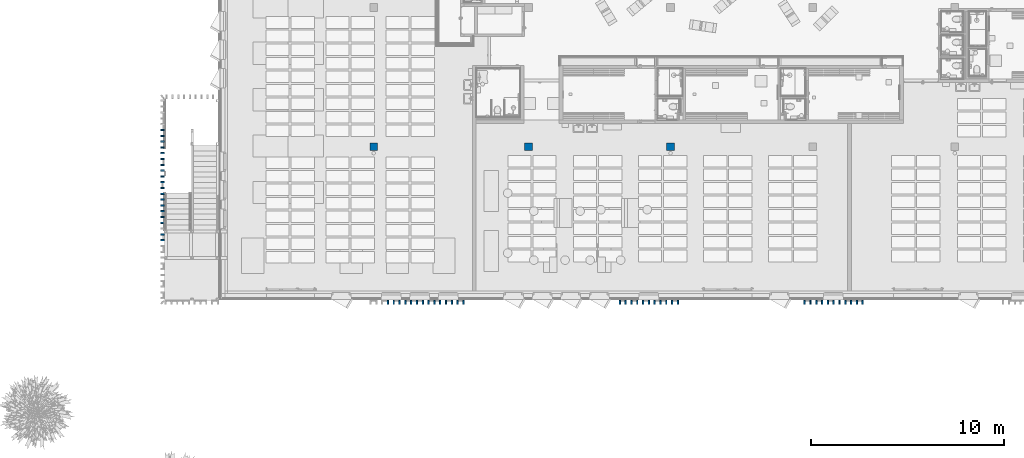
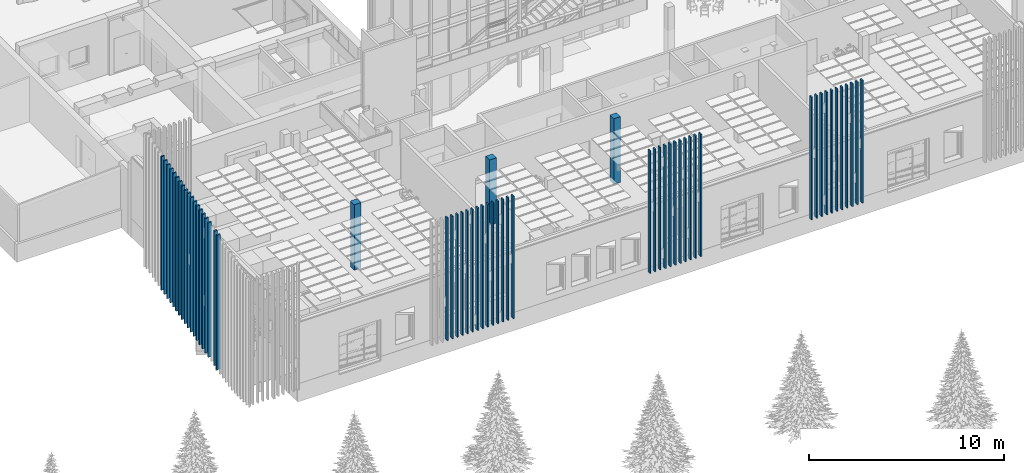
# One storey, part 12 of 301: 58 columns.
"""IFC2X3 building model written with IfcOpenShell, lengths in millimetres."""

import ifcopenshell
import ifcopenshell.guid

model = None  # the IFC model being written
_history = None  # IfcOwnerHistory: only IFC2X3 demands one
_inside = {}  # id of a spatial element -> (the spatial element, [elements in it])
_under = {}  # id of a project, library or spatial element -> (it, [spatial elements below it])
_declared = {}  # id of a project -> (the project, [libraries it declares])
_typed = {}  # id of a type object -> (the type object, [elements of that type])
_made_of = {}  # id of a material, layer set ... -> (it, [elements and type objects made of it])


def new_model(schema):
    """Start an empty IFC model of exactly this schema.

    Asked for "IFC4X3", IfcOpenShell would pick the latest addendum, in which some entities
    have other attributes; the version numbers below select the first issue.
    IFC2X3 requires an IfcOwnerHistory on every rooted entity: one is made here for all.
    """
    global model, _history
    if schema == "IFC4X3":
        model = ifcopenshell.file(schema_version=(4, 3, 0, 0))
    else:
        model = ifcopenshell.file(schema=schema)
    _inside.clear()
    _under.clear()
    _declared.clear()
    _typed.clear()
    _made_of.clear()
    _history = None
    if model.schema == "IFC2X3":
        org = make("IfcOrganization", Name="unknown")
        user = make(
            "IfcPersonAndOrganization",
            ThePerson=make("IfcPerson", FamilyName="unknown"),
            TheOrganization=org,
        )
        app = make(
            "IfcApplication",
            ApplicationDeveloper=org,
            Version="unknown",
            ApplicationFullName="unknown",
            ApplicationIdentifier="unknown",
        )
        _history = make(
            "IfcOwnerHistory",
            OwningUser=user,
            OwningApplication=app,
            ChangeAction="ADDED",
            CreationDate=0,
        )
    return model


def make(cls, **values):
    """One entity of the class cls with the attributes given. An attribute that is None is left unset."""
    return model.create_entity(
        cls, **{name: value for name, value in values.items() if value is not None}
    )


def entity(cls, *values):
    """Any entity or typed value of the class cls, its attributes in the order of the schema. None: left unset."""
    e = model.create_entity(cls)
    for i, value in enumerate(values):
        if value is not None:
            e[i] = value
    return e


def rooted(cls, **values):
    """An entity with a GlobalId (a new one), such as an element, a storey or a relation."""
    return make(cls, GlobalId=ifcopenshell.guid.new(), OwnerHistory=_history, **values)


def si_unit(unit_type, name, prefix=None):
    """IfcSIUnit, for example si_unit("LENGTHUNIT", "METRE", prefix="MILLI")."""
    return make("IfcSIUnit", UnitType=unit_type, Prefix=prefix, Name=name)


def converted_unit(unit_type, name, factor, base, dimensions=None, offset=None):
    """IfcConversionBasedUnit, such as the inch: factor (a typed value) times the base unit."""
    return make(
        "IfcConversionBasedUnit"
        if offset is None
        else "IfcConversionBasedUnitWithOffset",
        ConversionOffset=offset,
        Dimensions=None
        if dimensions is None
        else entity("IfcDimensionalExponents", *dimensions),
        UnitType=unit_type,
        Name=name,
        ConversionFactor=make(
            "IfcMeasureWithUnit", ValueComponent=factor, UnitComponent=base
        ),
    )


def derived_unit(unit_type, elements):
    """IfcDerivedUnit: a product of units, each with its exponent."""
    return make(
        "IfcDerivedUnit",
        Elements=[
            make("IfcDerivedUnitElement", Unit=unit, Exponent=power)
            for unit, power in elements
        ],
        UnitType=unit_type,
    )


def money_unit(currency):
    """IfcMonetaryUnit."""
    return make("IfcMonetaryUnit", Currency=currency)


def assignment(units):
    """IfcUnitAssignment: the units of a project."""
    return None if units is None else make("IfcUnitAssignment", Units=units)


def point(xyz):
    """IfcCartesianPoint."""
    return None if xyz is None else make("IfcCartesianPoint", Coordinates=xyz)


def direction(xyz):
    """IfcDirection."""
    return None if xyz is None else make("IfcDirection", DirectionRatios=xyz)


def frame(location, z_axis=None, x_axis=None):
    """IfcAxis2Placement3D, a coordinate frame: its origin and axes. An axis left out is left unset."""
    return make(
        "IfcAxis2Placement3D",
        Location=point(location),
        Axis=direction(z_axis),
        RefDirection=direction(x_axis),
    )


def origin_with_axes():
    """The frame at (0, 0, 0) with the z axis (0, 0, 1) and the x axis (1, 0, 0) written out."""
    return frame((0.0, 0.0, 0.0), z_axis=(0.0, 0.0, 1.0), x_axis=(1.0, 0.0, 0.0))


def place(relative_to, where):
    """IfcLocalPlacement: puts the frame where relative to a parent placement (None: the world)."""
    return make(
        "IfcLocalPlacement", PlacementRelTo=relative_to, RelativePlacement=where
    )


def context(
    kind, dimensions, precision=None, world=None, true_north=None, identifier=None
):
    """IfcGeometricRepresentationContext, for example the 3D "Model" context."""
    return make(
        "IfcGeometricRepresentationContext",
        ContextIdentifier=identifier,
        ContextType=kind,
        CoordinateSpaceDimension=dimensions,
        Precision=precision,
        WorldCoordinateSystem=world,
        TrueNorth=true_north,
    )


def subcontext(parent, identifier, kind, view, scale=None):
    """IfcGeometricRepresentationSubContext, for example "Body" below "Model"."""
    return make(
        "IfcGeometricRepresentationSubContext",
        ContextIdentifier=identifier,
        ContextType=kind,
        ParentContext=parent,
        TargetScale=scale,
        TargetView=view,
    )


def project(units=None, contexts=None):
    """IfcProject with its units and contexts."""
    return rooted(
        "IfcProject",
        Name="project",
        RepresentationContexts=contexts,
        UnitsInContext=assignment(units),
    )


def spatial(cls, under=None, at=None, **own):
    """A site, building, storey or space (cls), placed at a placement, below another one or the project."""
    s = rooted(cls, ObjectPlacement=at, **own)
    if under is not None:
        _under.setdefault(under.id(), (under, []))[1].append(s)
    return s


def faces_of(points, faces, orient=None, outer=None):
    """IfcFace entities. A face is a list of loops; a loop is a list of indices into points, from 0.

    orient and outer hold one flag for each loop. By default every Orientation is true, the
    first loop of a face is its IfcFaceOuterBound and the others are IfcFaceBound.
    """
    made = []
    for i, loops in enumerate(faces):
        bounds = []
        for j, loop in enumerate(loops):
            is_outer = j == 0 if outer is None else outer[i][j]
            bounds.append(
                make(
                    "IfcFaceOuterBound" if is_outer else "IfcFaceBound",
                    Bound=make("IfcPolyLoop", Polygon=[points[k] for k in loop]),
                    Orientation=True if orient is None else orient[i][j],
                )
            )
        made.append(make("IfcFace", Bounds=bounds))
    return made


def faceted_brep(points, faces, orient=None, outer=None, voids=None):
    """IfcFacetedBrep: a solid bounded by flat faces; with voids (closed shells), ...WithVoids."""
    shared = [point(p) for p in points]
    hull = make("IfcClosedShell", CfsFaces=faces_of(shared, faces, orient, outer))
    if voids is None:
        return make("IfcFacetedBrep", Outer=hull)
    return make(
        "IfcFacetedBrepWithVoids",
        Outer=hull,
        Voids=[
            make(cls, CfsFaces=faces_of(shared, fs, o, b)) for cls, fs, o, b in voids
        ],
    )


def shape(context_of_items, identifier, shape_type, items):
    """IfcShapeRepresentation: the items that make up one representation, for example the "Body"."""
    return make(
        "IfcShapeRepresentation",
        ContextOfItems=context_of_items,
        RepresentationIdentifier=identifier,
        RepresentationType=shape_type,
        Items=items,
    )


def material(Name=None, Category=None):
    """IfcMaterial."""
    return make("IfcMaterial", Name=Name, Category=Category)


def made_of(thing, what):
    """Note that an element or type object is made of a material, layer set ...; save() writes the relation."""
    if what is not None:
        _made_of.setdefault(what.id(), (what, []))[1].append(thing)
    return thing


def type_object(cls, material=None, **own):
    """A type object (cls), such as IfcWallType, which elements share."""
    return made_of(rooted(cls, **own), material)


def element(
    cls,
    number,
    at=None,
    inside=None,
    cuts=None,
    type_object=None,
    material=None,
    context=None,
    identifier="Body",
    shape_type=None,
    held_by="IfcProductDefinitionShape",
    body=None,
    shapes=None,
    **own,
):
    """One element of the class cls, such as IfcWall. Its Tag is "e" and its number.

    at: its placement. inside: the storey or other place that contains it. cuts: it is an
    opening in that element (IfcRelVoidsElement). A single representation is given by context,
    identifier, shape_type and body (its items); several are given by shapes. held_by: the class
    of the entity that holds the representations. save() writes the other relations.
    """
    e = rooted(cls, Tag="e%d" % number, ObjectPlacement=at, **own)
    if body is not None:
        shapes = [shape(context, identifier, shape_type, body)]
    if shapes is not None:
        e.Representation = make(held_by, Representations=shapes)
    if inside is not None:
        _inside.setdefault(inside.id(), (inside, []))[1].append(e)
    if cuts is not None:
        rooted(
            "IfcRelVoidsElement", RelatingBuildingElement=cuts, RelatedOpeningElement=e
        )
    if type_object is not None:
        _typed.setdefault(type_object.id(), (type_object, []))[1].append(e)
    return made_of(e, material)


def aggregate(whole, parts):
    """IfcRelAggregates: a whole, such as a stair, and the parts it consists of."""
    return rooted("IfcRelAggregates", RelatingObject=whole, RelatedObjects=parts)


def save(model, path):
    """Write the relations noted so far, then the file.

    IfcRelAggregates (storeys below a building ...), IfcRelContainedInSpatialStructure (elements
    in a storey), IfcRelDefinesByType, IfcRelAssociatesMaterial and IfcRelDeclares: one each for
    every whole, place, type object, material and project.
    """
    for whole, parts in _under.values():
        aggregate(whole, parts)
    for where, things in _inside.values():
        rooted(
            "IfcRelContainedInSpatialStructure",
            RelatedElements=things,
            RelatingStructure=where,
        )
    for kind, things in _typed.values():
        rooted("IfcRelDefinesByType", RelatedObjects=things, RelatingType=kind)
    for what, things in _made_of.values():
        rooted("IfcRelAssociatesMaterial", RelatedObjects=things, RelatingMaterial=what)
    for by, libraries in _declared.values():
        rooted("IfcRelDeclares", RelatingContext=by, RelatedDefinitions=libraries)
    model.write(path)


model = new_model("IFC2X3")

# Units and contexts
model_context = context("Model", 3, precision=0.01, world=origin_with_axes(), true_north=direction((0.0, 1.0)))
body_context = subcontext(model_context, "Body", "Model", "MODEL_VIEW")
ifc_project = project(units=[si_unit("LENGTHUNIT", "METRE", prefix="MILLI"), si_unit("AREAUNIT", "SQUARE_METRE"), si_unit("VOLUMEUNIT", "CUBIC_METRE"), converted_unit("PLANEANGLEUNIT", "DEGREE", entity("IfcPlaneAngleMeasure", 0.0174532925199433), si_unit("PLANEANGLEUNIT", "RADIAN"), dimensions=[0, 0, 0, 0, 0, 0, 0]), money_unit("EUR"), converted_unit("TIMEUNIT", "Year", entity("IfcTimeMeasure", 31557600.0), si_unit("TIMEUNIT", "SECOND"), dimensions=[0, 0, 1, 0, 0, 0, 0]), si_unit("MASSUNIT", "GRAM", prefix="KILO"), si_unit("THERMODYNAMICTEMPERATUREUNIT", "DEGREE_CELSIUS"), si_unit("LUMINOUSINTENSITYUNIT", "LUMEN"), si_unit("ENERGYUNIT", "JOULE", prefix="MEGA"), derived_unit("THERMALCONDUCTANCEUNIT", [(si_unit("POWERUNIT", "WATT"), 1), (si_unit("LENGTHUNIT", "METRE"), -1), (si_unit("THERMODYNAMICTEMPERATUREUNIT", "KELVIN"), -1)]), derived_unit("SPECIFICHEATCAPACITYUNIT", [(si_unit("ENERGYUNIT", "JOULE"), 1), (si_unit("MASSUNIT", "GRAM", prefix="KILO"), -1), (si_unit("THERMODYNAMICTEMPERATUREUNIT", "KELVIN"), -1)]), derived_unit("MASSDENSITYUNIT", [(si_unit("MASSUNIT", "GRAM", prefix="KILO"), 1), (si_unit("VOLUMEUNIT", "CUBIC_METRE"), -1)])], contexts=[model_context])

# Site, building, storey
site_placement = place(None, frame((0.0, 0.0, 8650.0), z_axis=(0.0, 0.0, 1.0), x_axis=(1.0, 0.0, 0.0)))
site = spatial("IfcSite", under=ifc_project, at=site_placement, Name="43301:001:0844", CompositionType="ELEMENT")
building_placement = place(site_placement, origin_with_axes())
building = spatial("IfcBuilding", under=site, at=building_placement, Name="Kuressaare Ametikooli tuulikute mehaanikute õppekorpus", CompositionType="ELEMENT")
storey_placement = place(building_placement, origin_with_axes())
storey = spatial("IfcBuildingStorey", under=building, at=storey_placement, Name="1.korrus", CompositionType="ELEMENT", Elevation=0.0)

# Columns
ifc_material_1 = material(Name="GENEERILINE - KONSTRUKTRIOON")
column_type_1 = type_object("IfcColumnType", Name="GENEERILINE - KONSTRUKTRIOON 200 x 75", PredefinedType="NOTDEFINED")
column_1_placement = place(storey_placement, frame((84946.22662386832, 15640.41808387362, 1426.869116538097), z_axis=(0.0, 0.0, 1.0), x_axis=(-1.0, 0.0, 0.0)))
element("IfcColumn", 1, at=column_1_placement, inside=storey, type_object=column_type_1, material=ifc_material_1, Name="Varjestus_viltu", context=body_context, shape_type="Brep", body=[
    faceted_brep([(100.0000000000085, -37.49999999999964, 8373.615978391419), (-99.99999999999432, -37.49999999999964, 8373.615971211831), (-99.99999999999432, -37.49999999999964, 0.0), (100.0000000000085, -37.49999999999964, 0.0), (-99.99999999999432, 37.49999999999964, 8353.519781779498), (100.0000000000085, 37.49999999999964, 8353.519788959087), (-99.99999999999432, 37.49999999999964, 0.0), (100.0000000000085, 37.49999999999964, 0.0)], [[[0, 1, 2, 3]], [[4, 1, 0, 5]], [[1, 4, 6, 2]], [[2, 6, 7, 3]], [[5, 0, 3, 7]], [[4, 5, 7, 6]]]),
])
column_2_placement = place(storey_placement, frame((84946.22662386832, 15940.41808387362, 1507.256109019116), z_axis=(0.0, 0.0, 1.0), x_axis=(-1.0, 0.0, 0.0)))
element("IfcColumn", 2, at=column_2_placement, inside=storey, type_object=column_type_1, material=ifc_material_1, Name="Varjestus_viltu", context=body_context, shape_type="Brep", body=[
    faceted_brep([(100.0000000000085, -37.49999999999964, 8373.613743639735), (-99.99999999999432, -37.49999999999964, 8373.61373646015), (-99.99999999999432, -37.49999999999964, 0.0), (100.0000000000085, -37.49999999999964, 0.0), (-99.99999999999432, 37.49999999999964, 8353.517547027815), (100.0000000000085, 37.49999999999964, 8353.517554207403), (-99.99999999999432, 37.49999999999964, 0.0), (100.0000000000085, 37.49999999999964, 0.0)], [[[0, 1, 2, 3]], [[4, 1, 0, 5]], [[1, 4, 6, 2]], [[2, 6, 7, 3]], [[5, 0, 3, 7]], [[4, 5, 7, 6]]]),
])
column_3_placement = place(storey_placement, frame((84946.22662386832, 16240.41808387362, 1587.643101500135), z_axis=(0.0, 0.0, 1.0), x_axis=(-1.0, 0.0, 0.0)))
element("IfcColumn", 3, at=column_3_placement, inside=storey, type_object=column_type_1, material=ifc_material_1, Name="Varjestus_viltu", context=body_context, shape_type="Brep", body=[
    faceted_brep([(100.0000000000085, -37.49999999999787, 8373.61150888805), (-99.99999999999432, -37.49999999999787, 8373.611501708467), (-99.99999999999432, -37.49999999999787, 0.0), (100.0000000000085, -37.49999999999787, 0.0), (-99.99999999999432, 37.50000000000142, 8353.51531227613), (100.0000000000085, 37.50000000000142, 8353.51531945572), (-99.99999999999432, 37.50000000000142, 0.0), (100.0000000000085, 37.50000000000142, 0.0)], [[[0, 1, 2, 3]], [[4, 1, 0, 5]], [[1, 4, 6, 2]], [[2, 6, 7, 3]], [[5, 0, 3, 7]], [[4, 5, 7, 6]]]),
])
column_4_placement = place(storey_placement, frame((84946.22662386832, 16540.41808387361, 1668.030093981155), z_axis=(0.0, 0.0, 1.0), x_axis=(-1.0, 0.0, 0.0)))
element("IfcColumn", 4, at=column_4_placement, inside=storey, type_object=column_type_1, material=ifc_material_1, Name="Varjestus_viltu", context=body_context, shape_type="Brep", body=[
    faceted_brep([(100.0000000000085, -37.49999999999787, 8373.609274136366), (-99.99999999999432, -37.49999999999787, 8373.609266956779), (-99.99999999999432, -37.49999999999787, 0.0), (100.0000000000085, -37.49999999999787, 0.0), (-99.99999999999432, 37.50000000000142, 8353.513077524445), (100.0000000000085, 37.50000000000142, 8353.513084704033), (-99.99999999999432, 37.50000000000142, 0.0), (100.0000000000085, 37.50000000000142, 0.0)], [[[0, 1, 2, 3]], [[4, 1, 0, 5]], [[1, 4, 6, 2]], [[2, 6, 7, 3]], [[5, 0, 3, 7]], [[4, 5, 7, 6]]]),
])
column_5_placement = place(storey_placement, frame((84946.22662386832, 16840.41808387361, 1748.417086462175), z_axis=(0.0, 0.0, 1.0), x_axis=(-1.0, 0.0, 0.0)))
element("IfcColumn", 5, at=column_5_placement, inside=storey, type_object=column_type_1, material=ifc_material_1, Name="Varjestus_viltu", context=body_context, shape_type="Brep", body=[
    faceted_brep([(100.0000000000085, -37.49999999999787, 8373.607039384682), (-99.99999999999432, -37.49999999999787, 8373.607032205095), (-99.99999999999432, -37.49999999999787, 0.0), (100.0000000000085, -37.49999999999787, 0.0), (-99.99999999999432, 37.50000000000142, 8353.51084277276), (100.0000000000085, 37.50000000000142, 8353.51084995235), (-99.99999999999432, 37.50000000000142, 0.0), (100.0000000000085, 37.50000000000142, 0.0)], [[[0, 1, 2, 3]], [[4, 1, 0, 5]], [[1, 4, 6, 2]], [[2, 6, 7, 3]], [[5, 0, 3, 7]], [[4, 5, 7, 6]]]),
])
column_6_placement = place(storey_placement, frame((84946.22662386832, 17140.41808387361, 1828.804078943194), z_axis=(0.0, 0.0, 1.0), x_axis=(-1.0, 0.0, 0.0)))
element("IfcColumn", 6, at=column_6_placement, inside=storey, type_object=column_type_1, material=ifc_material_1, Name="Varjestus_viltu", context=body_context, shape_type="Brep", body=[
    faceted_brep([(100.0000000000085, -37.49999999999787, 8373.604804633), (-99.99999999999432, -37.49999999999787, 8373.60479745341), (-99.99999999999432, -37.49999999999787, 0.0), (100.0000000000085, -37.49999999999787, 0.0), (-99.99999999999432, 37.50000000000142, 8353.50860802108), (100.0000000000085, 37.50000000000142, 8353.508615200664), (-99.99999999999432, 37.50000000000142, 0.0), (100.0000000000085, 37.50000000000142, 0.0)], [[[0, 1, 2, 3]], [[4, 1, 0, 5]], [[1, 4, 6, 2]], [[2, 6, 7, 3]], [[5, 0, 3, 7]], [[4, 5, 7, 6]]]),
])
column_7_placement = place(storey_placement, frame((84946.22662386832, 17440.41808387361, 1909.191071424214), z_axis=(0.0, 0.0, 1.0), x_axis=(-1.0, 0.0, 0.0)))
element("IfcColumn", 7, at=column_7_placement, inside=storey, type_object=column_type_1, material=ifc_material_1, Name="Varjestus_viltu", context=body_context, shape_type="Brep", body=[
    faceted_brep([(100.0000000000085, -37.49999999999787, 8373.602569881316), (-99.99999999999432, -37.49999999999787, 8373.602562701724), (-99.99999999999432, -37.49999999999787, 0.0), (100.0000000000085, -37.49999999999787, 0.0), (-99.99999999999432, 37.50000000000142, 8353.506373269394), (100.0000000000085, 37.50000000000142, 8353.506380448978), (-99.99999999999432, 37.50000000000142, 0.0), (100.0000000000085, 37.50000000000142, 0.0)], [[[0, 1, 2, 3]], [[4, 1, 0, 5]], [[1, 4, 6, 2]], [[2, 6, 7, 3]], [[5, 0, 3, 7]], [[4, 5, 7, 6]]]),
])
column_8_placement = place(storey_placement, frame((84946.22662386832, 15040.41808387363, 1266.095131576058), z_axis=(0.0, 0.0, 1.0), x_axis=(-1.0, 0.0, 0.0)))
element("IfcColumn", 8, at=column_8_placement, inside=storey, type_object=column_type_1, material=ifc_material_1, Name="Varjestus_viltu", context=body_context, shape_type="Brep", body=[
    faceted_brep([(100.0000000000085, -37.49999999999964, 8373.620447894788), (-99.99999999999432, -37.49999999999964, 8373.620440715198), (-99.99999999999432, -37.49999999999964, 0.0), (100.0000000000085, -37.49999999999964, 0.0), (-99.99999999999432, 37.49999999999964, 8353.524251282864), (100.0000000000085, 37.49999999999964, 8353.524258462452), (-99.99999999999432, 37.49999999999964, 0.0), (100.0000000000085, 37.49999999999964, 0.0)], [[[0, 1, 2, 3]], [[4, 1, 0, 5]], [[1, 4, 6, 2]], [[2, 6, 7, 3]], [[5, 0, 3, 7]], [[4, 5, 7, 6]]]),
])
column_9_placement = place(storey_placement, frame((84946.22662386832, 15340.41808387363, 1346.482124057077), z_axis=(0.0, 0.0, 1.0), x_axis=(-1.0, 0.0, 0.0)))
element("IfcColumn", 9, at=column_9_placement, inside=storey, type_object=column_type_1, material=ifc_material_1, Name="Varjestus_viltu", context=body_context, shape_type="Brep", body=[
    faceted_brep([(100.0000000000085, -37.49999999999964, 8373.618213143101), (-99.99999999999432, -37.49999999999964, 8373.618205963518), (-99.99999999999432, -37.49999999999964, 0.0), (100.0000000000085, -37.49999999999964, 0.0), (-99.99999999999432, 37.49999999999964, 8353.522016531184), (100.0000000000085, 37.49999999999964, 8353.52202371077), (-99.99999999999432, 37.49999999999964, 0.0), (100.0000000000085, 37.49999999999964, 0.0)], [[[0, 1, 2, 3]], [[4, 1, 0, 5]], [[1, 4, 6, 2]], [[2, 6, 7, 3]], [[5, 0, 3, 7]], [[4, 5, 7, 6]]]),
])
column_10_placement = place(storey_placement, frame((84946.22662386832, 12640.41808387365, 622.9991917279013), z_axis=(0.0, 0.0, 1.0), x_axis=(-1.0, 0.0, 0.0)))
element("IfcColumn", 10, at=column_10_placement, inside=storey, type_object=column_type_1, material=ifc_material_1, Name="Varjestus_viltu", context=body_context, shape_type="Brep", body=[
    faceted_brep([(100.0000000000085, 37.49999999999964, 8414.131537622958), (100.0000000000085, 37.49999999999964, 0.0), (-99.99999999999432, 37.49999999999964, 0.0), (-99.99999999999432, 37.49999999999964, 8414.131537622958), (100.0000000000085, -37.49999999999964, 8434.227727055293), (100.0000000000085, -37.49999999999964, 0.0), (-99.99999999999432, -37.49999999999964, 0.0), (-99.99999999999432, -37.49999999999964, 8434.227727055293)], [[[0, 1, 2, 3]], [[4, 5, 1, 0]], [[2, 1, 5, 6]], [[3, 2, 6, 7]], [[4, 0, 3, 7]], [[7, 6, 5, 4]]]),
])
column_11_placement = place(storey_placement, frame((84946.22662386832, 12940.41808387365, 703.3861842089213), z_axis=(0.0, 0.0, 1.0), x_axis=(-1.0, 0.0, 0.0)))
element("IfcColumn", 11, at=column_11_placement, inside=storey, type_object=column_type_1, material=ifc_material_1, Name="Varjestus_viltu", context=body_context, shape_type="Brep", body=[
    faceted_brep([(100.0000000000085, 37.49999999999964, 8414.129302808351), (100.0000000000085, 37.49999999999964, 0.0), (-99.99999999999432, 37.49999999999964, 0.0), (-99.99999999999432, 37.49999999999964, 8414.129302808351), (100.0000000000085, -37.49999999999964, 8434.225492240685), (100.0000000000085, -37.49999999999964, 0.0), (-99.99999999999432, -37.49999999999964, 0.0), (-99.99999999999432, -37.49999999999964, 8434.225492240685)], [[[0, 1, 2, 3]], [[4, 5, 1, 0]], [[2, 1, 5, 6]], [[3, 2, 6, 7]], [[4, 0, 3, 7]], [[7, 6, 5, 4]]]),
])
column_12_placement = place(storey_placement, frame((84946.22662386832, 13240.41808387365, 783.7731766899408), z_axis=(0.0, 0.0, 1.0), x_axis=(-1.0, 0.0, 0.0)))
element("IfcColumn", 12, at=column_12_placement, inside=storey, type_object=column_type_1, material=ifc_material_1, Name="Varjestus_viltu", context=body_context, shape_type="Brep", body=[
    faceted_brep([(100.0000000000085, 37.49999999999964, 8414.127067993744), (100.0000000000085, 37.49999999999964, 0.0), (-99.99999999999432, 37.49999999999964, 0.0), (-99.99999999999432, 37.49999999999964, 8414.127067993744), (100.0000000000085, -37.49999999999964, 8434.22325742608), (100.0000000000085, -37.49999999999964, 0.0), (-99.99999999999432, -37.49999999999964, 0.0), (-99.99999999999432, -37.49999999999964, 8434.22325742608)], [[[0, 1, 2, 3]], [[4, 5, 1, 0]], [[2, 1, 5, 6]], [[3, 2, 6, 7]], [[4, 0, 3, 7]], [[7, 6, 5, 4]]]),
])
column_13_placement = place(storey_placement, frame((84946.22662386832, 13540.41808387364, 864.1601691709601), z_axis=(0.0, 0.0, 1.0), x_axis=(-1.0, 0.0, 0.0)))
element("IfcColumn", 13, at=column_13_placement, inside=storey, type_object=column_type_1, material=ifc_material_1, Name="Varjestus_viltu", context=body_context, shape_type="Brep", body=[
    faceted_brep([(100.0000000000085, 37.49999999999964, 8414.124833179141), (100.0000000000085, 37.49999999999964, 0.0), (-99.99999999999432, 37.49999999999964, 0.0), (-99.99999999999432, 37.49999999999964, 8414.124833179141), (100.0000000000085, -37.49999999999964, 8434.221022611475), (100.0000000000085, -37.49999999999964, 0.0), (-99.99999999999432, -37.49999999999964, 0.0), (-99.99999999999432, -37.49999999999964, 8434.221022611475)], [[[0, 1, 2, 3]], [[4, 5, 1, 0]], [[2, 1, 5, 6]], [[3, 2, 6, 7]], [[4, 0, 3, 7]], [[7, 6, 5, 4]]]),
])
column_14_placement = place(storey_placement, frame((84946.22662386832, 13840.41808387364, 944.5471616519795), z_axis=(0.0, 0.0, 1.0), x_axis=(-1.0, 0.0, 0.0)))
element("IfcColumn", 14, at=column_14_placement, inside=storey, type_object=column_type_1, material=ifc_material_1, Name="Varjestus_viltu", context=body_context, shape_type="Brep", body=[
    faceted_brep([(100.0000000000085, 37.49999999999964, 8414.122598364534), (100.0000000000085, 37.49999999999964, 0.0), (-99.99999999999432, 37.49999999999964, 0.0), (-99.99999999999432, 37.49999999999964, 8414.122598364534), (100.0000000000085, -37.49999999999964, 8434.21878779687), (100.0000000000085, -37.49999999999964, 0.0), (-99.99999999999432, -37.49999999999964, 0.0), (-99.99999999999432, -37.49999999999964, 8434.21878779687)], [[[0, 1, 2, 3]], [[4, 5, 1, 0]], [[2, 1, 5, 6]], [[3, 2, 6, 7]], [[4, 0, 3, 7]], [[7, 6, 5, 4]]]),
])
column_15_placement = place(storey_placement, frame((84946.22662386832, 14140.41808387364, 1024.934154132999), z_axis=(0.0, 0.0, 1.0), x_axis=(-1.0, 0.0, 0.0)))
element("IfcColumn", 15, at=column_15_placement, inside=storey, type_object=column_type_1, material=ifc_material_1, Name="Varjestus_viltu", context=body_context, shape_type="Brep", body=[
    faceted_brep([(100.0000000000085, 37.49999999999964, 8412.871885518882), (100.0000000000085, 37.49999999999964, 0.0), (-99.99999999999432, 37.49999999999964, 0.0), (-99.99999999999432, 37.49999999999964, 8412.871885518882), (100.0000000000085, -37.49999999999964, 8432.968074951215), (100.0000000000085, -37.49999999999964, 0.0), (-99.99999999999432, -37.49999999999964, 0.0), (-99.99999999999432, -37.49999999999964, 8432.968074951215)], [[[0, 1, 2, 3]], [[4, 5, 1, 0]], [[2, 1, 5, 6]], [[3, 2, 6, 7]], [[4, 0, 3, 7]], [[7, 6, 5, 4]]]),
])
column_16_placement = place(storey_placement, frame((84946.22662386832, 14440.41808387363, 1105.321146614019), z_axis=(0.0, 0.0, 1.0), x_axis=(-1.0, 0.0, 0.0)))
element("IfcColumn", 16, at=column_16_placement, inside=storey, type_object=column_type_1, material=ifc_material_1, Name="Varjestus_viltu", context=body_context, shape_type="Brep", body=[
    faceted_brep([(100.0000000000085, 37.49999999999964, 8414.118128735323), (100.0000000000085, 37.49999999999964, 0.0), (-99.99999999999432, 37.49999999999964, 0.0), (-99.99999999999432, 37.49999999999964, 8414.118128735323), (100.0000000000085, -37.49999999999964, 8434.214318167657), (100.0000000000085, -37.49999999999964, 0.0), (-99.99999999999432, -37.49999999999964, 0.0), (-99.99999999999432, -37.49999999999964, 8434.214318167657)], [[[0, 1, 2, 3]], [[4, 5, 1, 0]], [[2, 1, 5, 6]], [[3, 2, 6, 7]], [[4, 0, 3, 7]], [[7, 6, 5, 4]]]),
])
column_17_placement = place(storey_placement, frame((84946.22662386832, 11740.41808387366, 381.838214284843), z_axis=(0.0, 0.0, 1.0), x_axis=(-1.0, 0.0, 0.0)))
element("IfcColumn", 17, at=column_17_placement, inside=storey, type_object=column_type_1, material=ifc_material_1, Name="Varjestus_viltu", context=body_context, shape_type="Brep", body=[
    faceted_brep([(100.0000000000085, 37.49999999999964, 8414.13824206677), (100.0000000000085, 37.49999999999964, 0.0), (-99.99999999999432, 37.49999999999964, 0.0), (-99.99999999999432, 37.49999999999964, 8414.13824206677), (100.0000000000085, -37.49999999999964, 8434.234431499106), (100.0000000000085, -37.49999999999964, 0.0), (-99.99999999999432, -37.49999999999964, 0.0), (-99.99999999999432, -37.49999999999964, 8434.234431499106)], [[[0, 1, 2, 3]], [[4, 5, 1, 0]], [[2, 1, 5, 6]], [[3, 2, 6, 7]], [[4, 0, 3, 7]], [[7, 6, 5, 4]]]),
])
column_18_placement = place(storey_placement, frame((84946.22662386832, 12040.41808387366, 462.2252067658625), z_axis=(0.0, 0.0, 1.0), x_axis=(-1.0, 0.0, 0.0)))
element("IfcColumn", 18, at=column_18_placement, inside=storey, type_object=column_type_1, material=ifc_material_1, Name="Varjestus_viltu", context=body_context, shape_type="Brep", body=[
    faceted_brep([(100.0000000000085, 37.49999999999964, 8414.136007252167), (100.0000000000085, 37.49999999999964, 0.0), (-99.99999999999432, 37.49999999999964, 0.0), (-99.99999999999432, 37.49999999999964, 8414.136007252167), (100.0000000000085, -37.49999999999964, 8434.232196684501), (100.0000000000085, -37.49999999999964, 0.0), (-99.99999999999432, -37.49999999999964, 0.0), (-99.99999999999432, -37.49999999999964, 8434.232196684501)], [[[0, 1, 2, 3]], [[4, 5, 1, 0]], [[2, 1, 5, 6]], [[3, 2, 6, 7]], [[4, 0, 3, 7]], [[7, 6, 5, 4]]]),
])
column_19_placement = place(storey_placement, frame((84946.22662386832, 14740.41808387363, 1185.708139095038), z_axis=(0.0, 0.0, 1.0), x_axis=(-1.0, 0.0, 0.0)))
element("IfcColumn", 19, at=column_19_placement, inside=storey, type_object=column_type_1, material=ifc_material_1, Name="Varjestus_viltu", context=body_context, shape_type="Brep", body=[
    faceted_brep([(100.0000000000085, 37.49999999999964, 8414.115893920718), (100.0000000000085, 37.49999999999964, 0.0), (-99.99999999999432, 37.49999999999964, 0.0), (-99.99999999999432, 37.49999999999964, 8414.115893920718), (100.0000000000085, -37.49999999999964, 8434.212083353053), (100.0000000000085, -37.49999999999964, 0.0), (-99.99999999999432, -37.49999999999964, 0.0), (-99.99999999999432, -37.49999999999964, 8434.212083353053)], [[[0, 1, 2, 3]], [[4, 5, 1, 0]], [[2, 1, 5, 6]], [[3, 2, 6, 7]], [[4, 0, 3, 7]], [[7, 6, 5, 4]]]),
])
for number, where, z_axis, x_axis in (
    (20, (96605.56858359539, 8523.838490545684, 100.0000000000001), (0.0, 0.0, 1.0), (0.0, -1.0, 0.0)),
    (21, (96905.56858359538, 8523.838490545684, 100.0000000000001), (0.0, 0.0, 1.0), (0.0, -1.0, 0.0)),
    (22, (97205.56858359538, 8523.838490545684, 100.0000000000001), (0.0, 0.0, 1.0), (0.0, -1.0, 0.0)),
    (23, (97505.56858359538, 8523.838490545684, 100.0000000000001), (0.0, 0.0, 1.0), (0.0, -1.0, 0.0)),
    (24, (97805.56858359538, 8523.838490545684, 100.0000000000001), (0.0, 0.0, 1.0), (0.0, -1.0, 0.0)),
    (25, (98105.56858359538, 8523.838490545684, 100.0000000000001), (0.0, 0.0, 1.0), (0.0, -1.0, 0.0)),
    (26, (98405.56858359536, 8523.838490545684, 100.0000000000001), (0.0, 0.0, 1.0), (0.0, -1.0, 0.0)),
    (27, (98705.56858359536, 8523.838490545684, 100.0000000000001), (0.0, 0.0, 1.0), (0.0, -1.0, 0.0)),
    (28, (99005.56858359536, 8523.838490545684, 100.0000000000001), (0.0, 0.0, 1.0), (0.0, -1.0, 0.0)),
    (29, (99305.56858359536, 8523.838490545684, 100.0000000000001), (0.0, 0.0, 1.0), (0.0, -1.0, 0.0)),
    (30, (99905.56858359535, 8523.838490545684, 100.0000000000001), (0.0, 0.0, 1.0), (0.0, -1.0, 0.0)),
    (31, (100205.5685835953, 8523.838490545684, 100.0000000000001), (0.0, 0.0, 1.0), (0.0, -1.0, 0.0)),
    (32, (100505.5685835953, 8523.838490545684, 100.0000000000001), (0.0, 0.0, 1.0), (0.0, -1.0, 0.0)),
    (33, (108595.4495291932, 8523.838490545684, 100.0000000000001), (0.0, 0.0, 1.0), (0.0, -1.0, 0.0)),
    (34, (99605.56858359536, 8523.838490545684, 100.0000000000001), (0.0, 0.0, 1.0), (0.0, -1.0, 0.0)),
    (35, (108895.4495291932, 8523.838490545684, 100.0000000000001), (0.0, 0.0, 1.0), (0.0, -1.0, 0.0)),
    (36, (109195.4495291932, 8523.838490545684, 100.0000000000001), (0.0, 0.0, 1.0), (0.0, -1.0, 0.0)),
    (37, (109495.4495291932, 8523.838490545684, 100.0000000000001), (0.0, 0.0, 1.0), (0.0, -1.0, 0.0)),
    (38, (109795.4495291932, 8523.838490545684, 100.0000000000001), (0.0, 0.0, 1.0), (0.0, -1.0, 0.0)),
    (39, (110095.4495291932, 8523.838490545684, 100.0000000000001), (0.0, 0.0, 1.0), (0.0, -1.0, 0.0)),
    (40, (110395.4495291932, 8523.838490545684, 100.0000000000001), (0.0, 0.0, 1.0), (0.0, -1.0, 0.0)),
    (41, (110695.4495291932, 8523.838490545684, 100.0000000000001), (0.0, 0.0, 1.0), (0.0, -1.0, 0.0)),
    (42, (110995.4495291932, 8523.838490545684, 100.0000000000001), (0.0, 0.0, 1.0), (0.0, -1.0, 0.0)),
    (43, (111295.4495291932, 8523.838490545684, 100.0000000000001), (0.0, 0.0, 1.0), (0.0, -1.0, 0.0)),
    (44, (111595.4495291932, 8523.838490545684, 100.0000000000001), (0.0, 0.0, 1.0), (0.0, -1.0, 0.0)),
    (45, (118155.5422381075, 8523.838490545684, 100.0000000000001), (0.0, 0.0, 1.0), (0.0, -1.0, 0.0)),
    (46, (118455.5422381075, 8523.838490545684, 100.0000000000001), (0.0, 0.0, 1.0), (0.0, -1.0, 0.0)),
    (47, (118755.5422381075, 8523.838490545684, 100.0000000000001), (0.0, 0.0, 1.0), (0.0, -1.0, 0.0)),
    (48, (119055.5422381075, 8523.838490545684, 100.0000000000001), (0.0, 0.0, 1.0), (0.0, -1.0, 0.0)),
    (49, (119355.5422381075, 8523.838490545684, 100.0000000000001), (0.0, 0.0, 1.0), (0.0, -1.0, 0.0)),
    (50, (119655.5422381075, 8523.838490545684, 100.0000000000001), (0.0, 0.0, 1.0), (0.0, -1.0, 0.0)),
    (51, (119955.5422381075, 8523.838490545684, 100.0000000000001), (0.0, 0.0, 1.0), (0.0, -1.0, 0.0)),
    (52, (120255.5422381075, 8523.838490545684, 100.0000000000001), (0.0, 0.0, 1.0), (0.0, -1.0, 0.0)),
    (53, (120855.5422381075, 8523.838490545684, 100.0000000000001), (0.0, 0.0, 1.0), (0.0, -1.0, 0.0)),
    (54, (120555.5422381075, 8523.838490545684, 100.0000000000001), (0.0, 0.0, 1.0), (0.0, -1.0, 0.0)),
    (55, (121155.5422381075, 8523.838490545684, 100.0000000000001), (0.0, 0.0, 1.0), (0.0, -1.0, 0.0)),
):
    element("IfcColumn", number, at=place(storey_placement, frame(where, z_axis=z_axis, x_axis=x_axis)), inside=storey, type_object=column_type_1, material=ifc_material_1, Name="Varjestus_viltu", context=body_context, shape_type="Brep", body=[
        faceted_brep([(-99.99999999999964, -37.50000000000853, 7664.185442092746), (-99.99999999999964, -37.50000000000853, 0.0), (99.99999999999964, -37.50000000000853, 0.0), (99.99999999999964, -37.50000000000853, 7664.185442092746), (-99.99999999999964, 37.49999999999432, 7670.74709185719), (-99.99999999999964, 37.49999999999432, 0.0), (99.99999999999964, 37.49999999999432, 0.0), (99.99999999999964, 37.49999999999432, 7670.74709185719)], [[[0, 1, 2, 3]], [[4, 5, 1, 0]], [[2, 1, 5, 6]], [[3, 2, 6, 7]], [[4, 0, 3, 7]], [[7, 6, 5, 4]]]),
    ])
ifc_material_2 = material(Name="Puit - Liimpuit")
column_type_2 = type_object("IfcColumnType", Name="Puit - Liimpuit 400 x 400", PredefinedType="NOTDEFINED")
for number, where, z_axis, x_axis in (
    (56, (95868.06842900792, 16574.046874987, 0.0), (0.0, 0.0, 1.0), (1.0, 0.0, 0.0)),
    (57, (111217.9493746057, 16574.04687498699, 0.0), (0.0, 0.0, 1.0), (1.0, 0.0, 0.0)),
    (58, (103867.9521302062, 16574.046874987, 0.0), (0.0, 0.0, 1.0), (1.0, 0.0, 0.0)),
):
    element("IfcColumn", number, at=place(storey_placement, frame(where, z_axis=z_axis, x_axis=x_axis)), inside=storey, type_object=column_type_2, material=ifc_material_2, context=body_context, shape_type="Brep", body=[
        faceted_brep([(-200.0000000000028, -199.9999999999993, 4099.999999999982), (-200.0000000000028, -199.9999999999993, 0.0), (200.0000000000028, -199.9999999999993, 0.0), (200.0000000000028, -199.9999999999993, 4099.999999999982), (-200.0000000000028, 199.9999999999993, 4099.999999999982), (-200.0000000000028, 199.9999999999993, 0.0), (200.0000000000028, 199.9999999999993, 0.0), (200.0000000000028, 199.9999999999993, 4099.999999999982)], [[[0, 1, 2, 3]], [[4, 5, 1, 0]], [[2, 1, 5, 6]], [[3, 2, 6, 7]], [[4, 0, 3, 7]], [[7, 6, 5, 4]]]),
    ])

save(model, "model.ifc")
